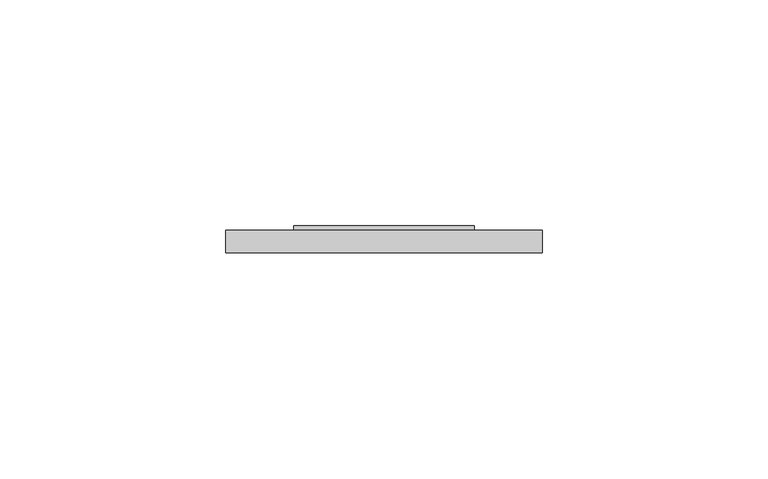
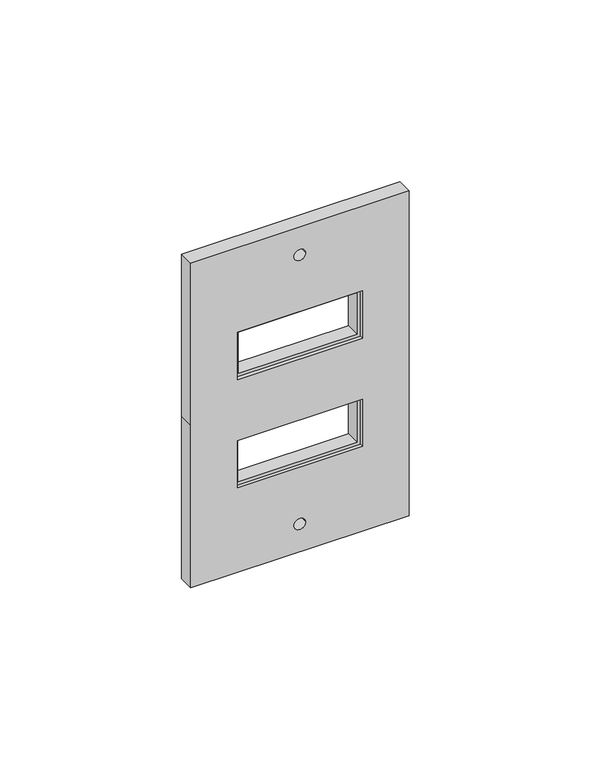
"""IFC4 building model written with IfcOpenShell, lengths in millimetres: light fixture geometry, Apagador doble : Apagador."""

from ifc_helpers import new_model, si_unit, point, frame, frame_2d, origin, place, context, project, spatial, polyline, circle_curve, trimmed, segment, composite_curve, outline, extrude, source, transform, mapped, element, save


def light_fixture_08b44dd3(model_context):
    return source(origin(), model_context, "Body", "SweptSolid", [
        extrude(outline(polyline([(1089.6666667, 145.0), (1089.6666667, 105.0), (1073.6666667, 105.0), (1073.6666667, 145.0), (1089.6666667, 145.0)]), holes=[polyline([(1088.6666667, 144.0359807), (1074.6666667, 144.0359807), (1074.6666667, 105.9197769), (1088.6666667, 105.9197769), (1088.6666667, 144.0359807)])]), frame((0.0, 28.0525607, 0.0), z_axis=(0.0, 1.0, 0.0), x_axis=(0.0, 0.0, 1.0)), (0.0, 0.0, 1.0), 4.7658788),
        extrude(outline(polyline([(1110.3333333, 145.0), (1126.3333333, 145.0), (1126.3333333, 105.0), (1110.3333333, 105.0), (1110.3333333, 145.0)]), holes=[polyline([(1125.3333333, 106.0), (1125.3333333, 144.0), (1111.3333333, 144.0), (1111.3333333, 106.0), (1125.3333333, 106.0)])]), frame((0.0, 28.0525607, 0.0), z_axis=(0.0, 1.0, 0.0), x_axis=(0.0, 0.0, 1.0)), (0.0, 0.0, 1.0), 4.7658788),
        extrude(outline(polyline([(1155.0, 160.0), (1155.0, 90.0), (1100.0, 90.0), (1045.0, 90.0), (1045.0, 160.0), (1155.0, 160.0)]), holes=[composite_curve([segment(trimmed(circle_curve(frame_2d((1145.5814465, 125.0)), 1.8475425), [point((1145.5814465, 123.1524575))], [point((1145.5814465, 126.8475425))], True, "CARTESIAN"), True, "CONTINUOUS"), segment(trimmed(circle_curve(frame_2d((1145.5814465, 125.0)), 1.8475425), [point((1145.5814465, 126.8475425))], [point((1145.5814465, 123.1524575))], True, "CARTESIAN"), True, "CONTINUOUS")], self_intersect=False), composite_curve([segment(trimmed(circle_curve(frame_2d((1054.4185535, 125.0)), 1.8475425), [point((1054.4185535, 123.1524575))], [point((1054.4185535, 126.8475425))], True, "CARTESIAN"), True, "CONTINUOUS"), segment(trimmed(circle_curve(frame_2d((1054.4185535, 125.0)), 1.8475425), [point((1054.4185535, 126.8475425))], [point((1054.4185535, 123.1524575))], True, "CARTESIAN"), True, "CONTINUOUS")], self_intersect=False), polyline([(1089.6666667, 105.0), (1089.6666667, 145.0), (1073.6666667, 145.0), (1073.6666667, 105.0), (1089.6666667, 105.0)]), polyline([(1126.3333333, 105.0), (1126.3333333, 145.0), (1110.3333333, 145.0), (1110.3333333, 105.0), (1126.3333333, 105.0)])]), frame((0.0, 26.85, 0.0), z_axis=(0.0, 1.0, 0.0), x_axis=(0.0, 0.0, 1.0)), (0.0, 0.0, 1.0), 5.0),
    ])


if __name__ == "__main__":
    model = new_model("IFC4")
    model_context = context("Model", 3, world=origin())
    ifc_project = project(units=[si_unit("LENGTHUNIT", "METRE", prefix="MILLI")], contexts=[model_context])
    site = spatial("IfcSite", under=ifc_project)
    building = spatial("IfcBuilding", under=site)
    placement = place(None, origin())
    light_fixture_shape = light_fixture_08b44dd3(model_context)
    element("IfcLightFixture", 1, ObjectType="Apagador doble : Apagador", at=placement, inside=building, context=model_context, shape_type="MappedRepresentation", body=[
        mapped(light_fixture_shape, transform((0.0, 0.0, 0.0), x_axis=(1.0, 0.0, 0.0), y_axis=(0.0, 1.0, 0.0), z_axis=(0.0, 0.0, 1.0))),
    ])
    save(model, "model.ifc")
